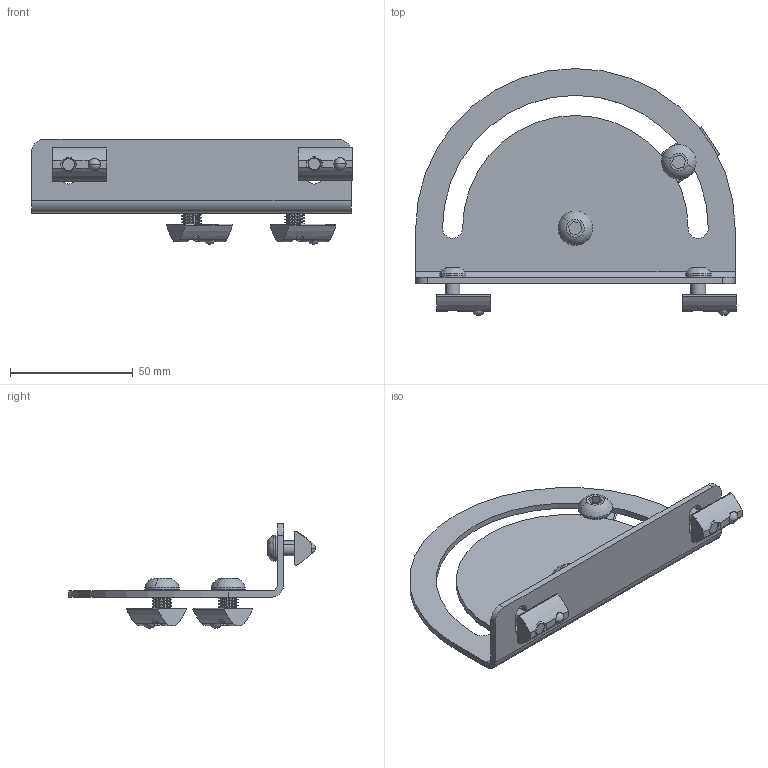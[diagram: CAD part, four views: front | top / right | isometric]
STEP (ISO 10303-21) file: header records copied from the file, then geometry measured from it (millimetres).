
FILE_DESCRIPTION (( 'STEP AP214' ), '1' );
FILE_NAME ('10493_schstzst.STEP', '2016-12-16T07:36:36', ( '' ), ( '' ), 'SwSTEP 2.0', 'SolidWorks 2016', '' );
FILE_SCHEMA (( 'AUTOMOTIVE_DESIGN' ));
Length unit declared in the file: millimetre
Products named in the file (8): 10214_LKS_M6x14; 10487-01-0000-00_sicherungsscheibem8; 10493_schstzst; 50352_grundelement; 10223-01-0000-00_ M8x14 halbrund; 10486-01-0000-00_sicherungsscheibem6; 10352-01-0000-00_nutenstein_m6; 10358-01-0000-00_nutenstein m8
Assembly tree (13 placements, depth 2):
  10493_schstzst
    50352_grundelement
    10223-01-0000-00_ M8x14 halbrund  x2
    10214_LKS_M6x14  x2
    10487-01-0000-00_sicherungsscheibem8  x2
    10486-01-0000-00_sicherungsscheibem6  x2
    10352-01-0000-00_nutenstein_m6  x2
    10358-01-0000-00_nutenstein m8  x2
Bounding box: 130.5 x 100.5 x 42.8 mm (x, y, z)
Volume: 37034.7 mm3; surface area: 32797.8 mm2
Topology: 15 solids, 15 shells, 260 faces, 652 edges, 424 vertices
Faces by surface type: cylinder 125, plane 85, cone 20, bspline 18, torus 8, sphere 4
Entity records: 7685 total; most frequent: CARTESIAN_POINT 3315, ORIENTED_EDGE 722, DIRECTION 721, EDGE_CURVE 361, AXIS2_PLACEMENT_3D 282, VERTEX_POINT 236, EDGE_LOOP 163, VECTOR 157
